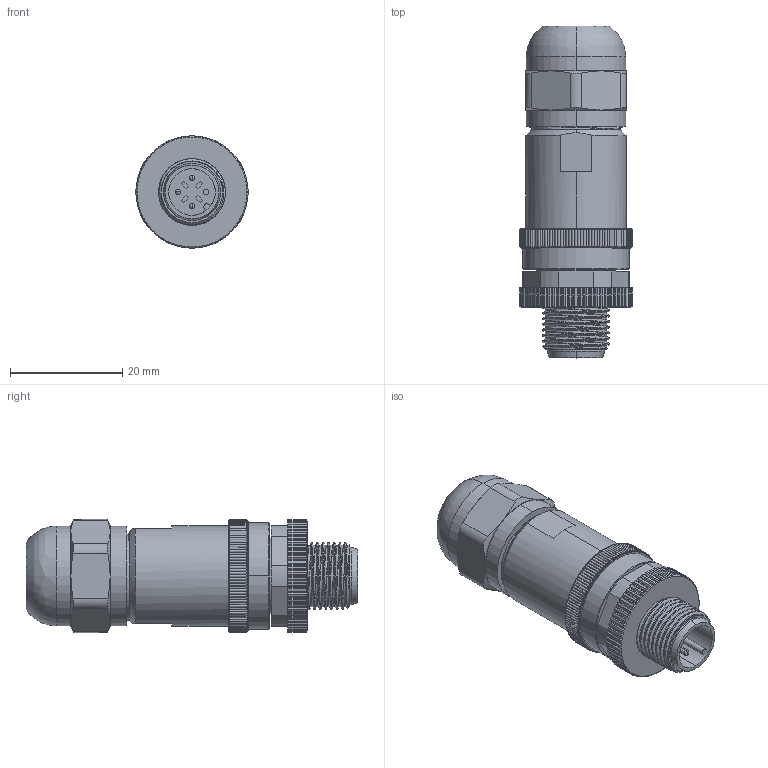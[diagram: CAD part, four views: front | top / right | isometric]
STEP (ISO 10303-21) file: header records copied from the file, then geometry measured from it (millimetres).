
FILE_DESCRIPTION((''),'2;1');
FILE_NAME('XC-M12P-WK-PG9','2025-06-23T11:32:06',('lyj'),(''),'CREO PARAMETRIC BY PTC INC, 2019010','CREO PARAMETRIC BY PTC INC, 2019010','');
FILE_SCHEMA(('CONFIG_CONTROL_DESIGN'));
Length unit declared in the file: millimetre
Products named in the file (1): XC-M12P-WK-PG9
Bounding box: 20 x 59.2 x 20.16 mm (x, y, z)
Volume: 8150.4 mm3; surface area: 13520 mm2
Topology: 1 solids, 23 shells, 1734 faces, 4517 edges, 2875 vertices
Faces by surface type: cylinder 830, plane 408, cone 375, bspline 61, extrusion 28, torus 26, sphere 6
Entity records: 86543 total; most frequent: CARTESIAN_POINT 45781, ORIENTED_EDGE 9022, DIRECTION 7865, EDGE_CURVE 4511, AXIS2_PLACEMENT_3D 3125, VERTEX_POINT 2875, EDGE_LOOP 1828, FACE_OUTER_BOUND 1734
